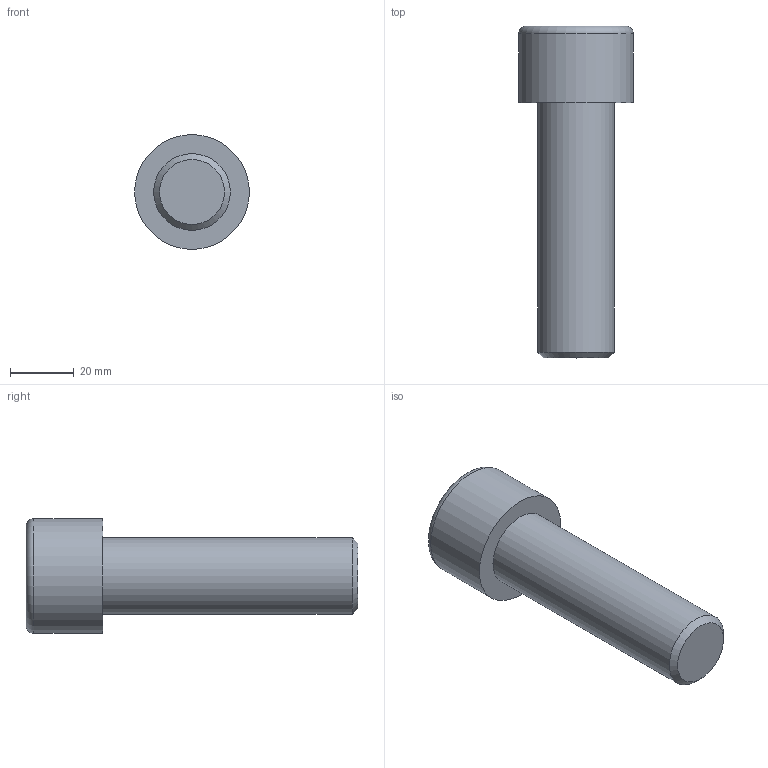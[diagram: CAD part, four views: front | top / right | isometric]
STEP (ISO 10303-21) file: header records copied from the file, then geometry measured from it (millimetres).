
FILE_DESCRIPTION(/* description */ (''),/* implementation_level */ '2;1');
FILE_NAME(/* name */ 'C:\Users\D\Documents\Inventor\各種小物\JIS\JIS B 1176 六角穴付きボルト\M24x80.stp',/* time_stamp */ '2022-05-09T18:59:54+09:00',/* author */ ('D'),/* organization */ (''),/* preprocessor_version */ 'ST-DEVELOPER v18',/* originating_system */ 'Autodesk Inventor 2020',/* authorisation */ '');
FILE_SCHEMA (('AUTOMOTIVE_DESIGN { 1 0 10303 214 3 1 1 }'));
Length unit declared in the file: millimetre
Products named in the file (1): M1.6x2.5
Bounding box: 36 x 104 x 36 mm (x, y, z)
Volume: 55835.6 mm3; surface area: 11452.1 mm2
Topology: 1 solids, 1 shells, 14 faces, 33 edges, 22 vertices
Faces by surface type: plane 9, cone 2, cylinder 2, torus 1
Full cylindrical faces by diameter (mm): 24 x1, 36 x1
Entity records: 435 total; most frequent: CARTESIAN_POINT 83, ORIENTED_EDGE 64, DIRECTION 64, EDGE_CURVE 32, AXIS2_PLACEMENT_3D 24, VERTEX_POINT 22, EDGE_LOOP 16, LINE 16
